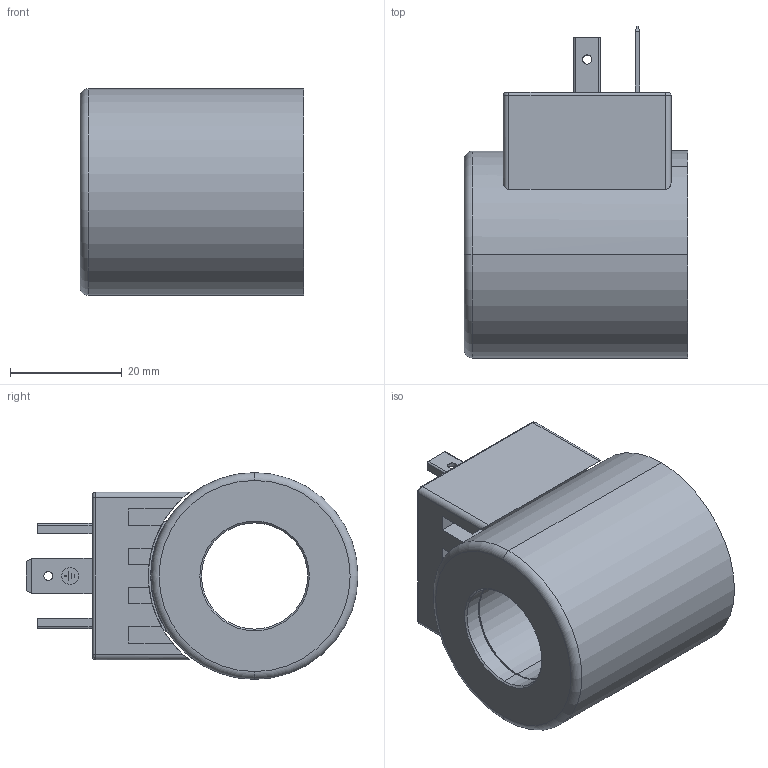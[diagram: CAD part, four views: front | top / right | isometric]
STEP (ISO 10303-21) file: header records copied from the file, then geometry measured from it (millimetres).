
FILE_DESCRIPTION (( 'STEP AP214' ), '1' );
FILE_NAME ('VDE37_19x40.STEP', '2013-07-25T09:37:16', ( '' ), ( '' ), 'SwSTEP 2.0', 'SolidWorks 2012', '' );
FILE_SCHEMA (( 'AUTOMOTIVE_DESIGN' ));
Length unit declared in the file: millimetre
Products named in the file (1): VDE37_19x40
Bounding box: 40 x 59.4 x 37 mm (x, y, z)
Volume: 40734 mm3; surface area: 23125 mm2
Topology: 6 solids, 6 shells, 206 faces, 522 edges, 338 vertices
Faces by surface type: plane 90, cylinder 78, bspline 20, cone 16, torus 2
Entity records: 10730 total; most frequent: CARTESIAN_POINT 3522, ORIENTED_EDGE 1044, DIRECTION 949, EDGE_CURVE 522, VERTEX_POINT 338, AXIS2_PLACEMENT_3D 337, LINE 275, VECTOR 275
